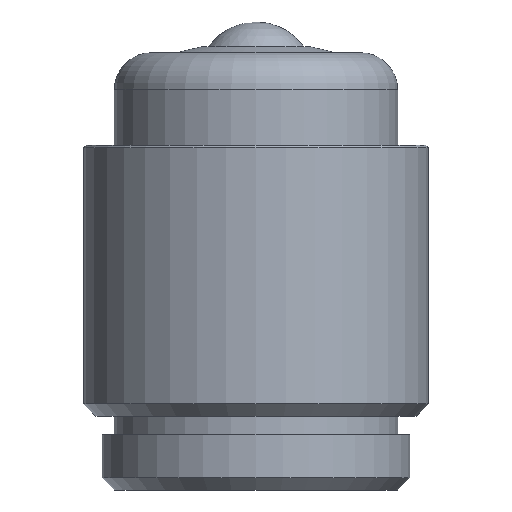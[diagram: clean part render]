
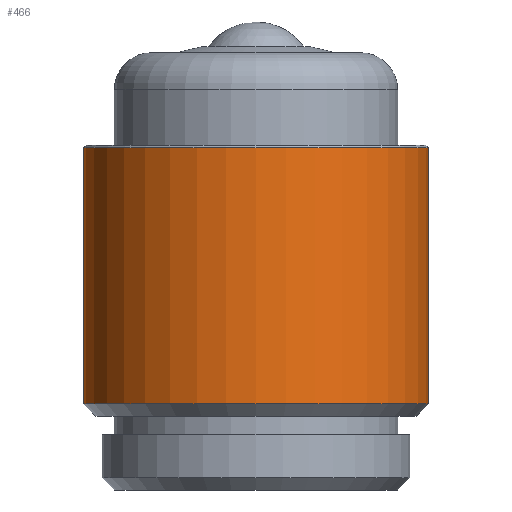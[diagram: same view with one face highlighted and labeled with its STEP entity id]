
A CAD part, front view. The second image highlights one B-rep face of the part: STEP entity #466.
In plain terms, the highlighted cylindrical face has radius 14 mm (diameter 28 mm), a full revolution.
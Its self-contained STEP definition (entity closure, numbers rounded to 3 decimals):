
#49=CYLINDRICAL_SURFACE('',#513,14.);
#79=FACE_BOUND('',#155,.T.);
#111=FACE_OUTER_BOUND('',#154,.T.);
#154=EDGE_LOOP('',(#358));
#155=EDGE_LOOP('',(#359));
#223=CIRCLE('',#512,14.);
#224=CIRCLE('',#514,14.);
#261=VERTEX_POINT('',#772);
#262=VERTEX_POINT('',#775);
#305=EDGE_CURVE('',#261,#261,#223,.T.);
#306=EDGE_CURVE('',#262,#262,#224,.T.);
#358=ORIENTED_EDGE('',*,*,#306,.F.);
#359=ORIENTED_EDGE('',*,*,#305,.T.);
#466=ADVANCED_FACE('',(#111,#79),#49,.T.);
#512=AXIS2_PLACEMENT_3D('',#773,#602,#603);
#513=AXIS2_PLACEMENT_3D('',#774,#604,#605);
#514=AXIS2_PLACEMENT_3D('',#776,#606,#607);
#602=DIRECTION('center_axis',(0.,0.,-1.));
#603=DIRECTION('ref_axis',(0.,1.,0.));
#604=DIRECTION('center_axis',(0.,0.,-1.));
#605=DIRECTION('ref_axis',(0.,1.,0.));
#606=DIRECTION('center_axis',(0.,0.,-1.));
#607=DIRECTION('ref_axis',(0.,1.,0.));
#772=CARTESIAN_POINT('',(0.,14.,27.8));
#773=CARTESIAN_POINT('Origin',(0.,0.,27.8));
#774=CARTESIAN_POINT('Origin',(0.,0.,17.4));
#775=CARTESIAN_POINT('',(0.,14.,7.));
#776=CARTESIAN_POINT('Origin',(0.,0.,7.));
